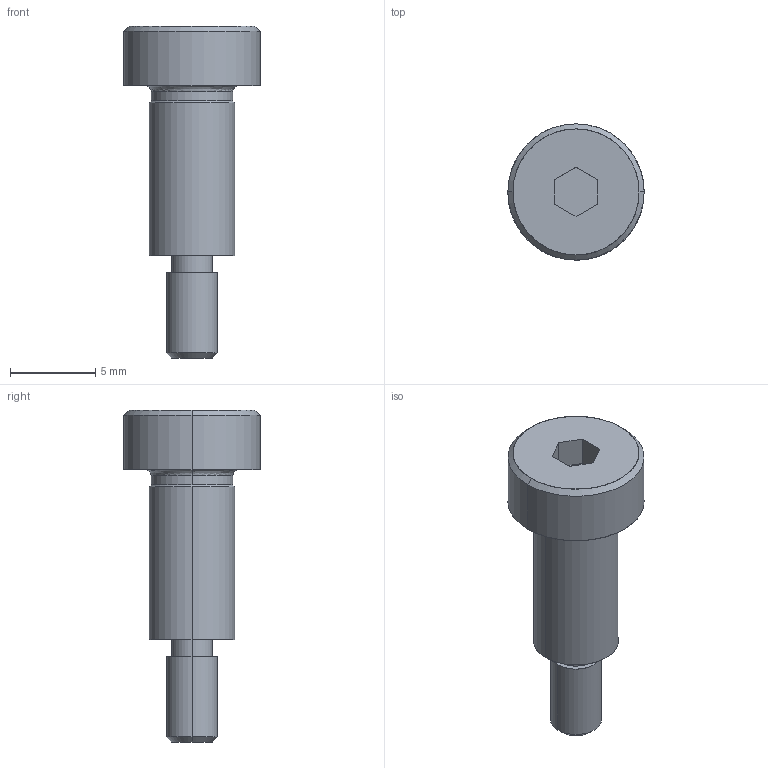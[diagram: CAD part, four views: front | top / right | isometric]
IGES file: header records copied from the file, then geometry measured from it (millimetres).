
Global section: file name: E:\UnigraphicsGraphicData\MISUMI_PRESS-PARTS\IGES\3d_msb5-10_00567_r00.igs; native system: NX V5.0; preprocessor: UGS NX IGES V5.0; author: MISUMI; date: 20110105.161514; units: millimetre
Bounding box: 8 x 8 x 19.5 mm (x, y, z)
Surface area: 413.8 mm2 (no closed solid volume)
Topology: 0 solids, 0 shells, 30 faces, 172 edges, 172 vertices
Faces by surface type: bspline 30
